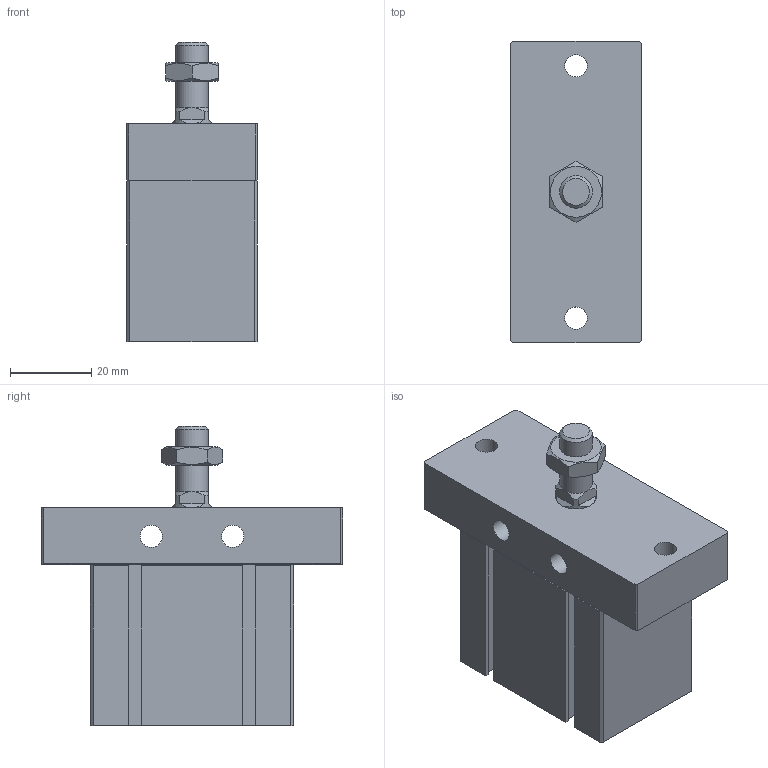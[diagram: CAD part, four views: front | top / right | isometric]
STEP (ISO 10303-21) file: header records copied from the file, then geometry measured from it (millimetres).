
FILE_DESCRIPTION((''),'2;1');
FILE_NAME('J:\3D電子目錄\氣缸\ND\ND\ND25-FB\ND25x10-FB.stp','2008-03-12T17:30:02',('66-2f-008'),(''),'Autodesk Inventor 11','Autodesk Inventor 11','');
FILE_SCHEMA(('AUTOMOTIVE_DESIGN { 1 0 10303 214 1 1 1 1 }'));
Length unit declared in the file: millimetre
Products named in the file (1): ND25-FB
Bounding box: 32 x 74 x 73.5 mm (x, y, z)
Volume: 89161.4 mm3; surface area: 19900.6 mm2
Topology: 2 solids, 2 shells, 129 faces, 311 edges, 197 vertices
Faces by surface type: plane 87, cone 14, bspline 14, cylinder 13, torus 1
Full cylindrical faces by diameter (mm): 1.5 x2, 5.5 x2, 8 x2, 17 x1, 28 x1, 29.4 x1
Entity records: 3654 total; most frequent: CARTESIAN_POINT 820, DIRECTION 552, ORIENTED_EDGE 552, EDGE_CURVE 276, VERTEX_POINT 192, VECTOR 192, LINE 192, AXIS2_PLACEMENT_3D 180
